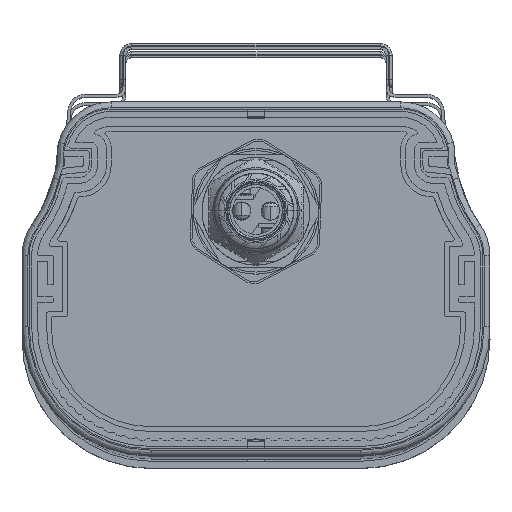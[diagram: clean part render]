
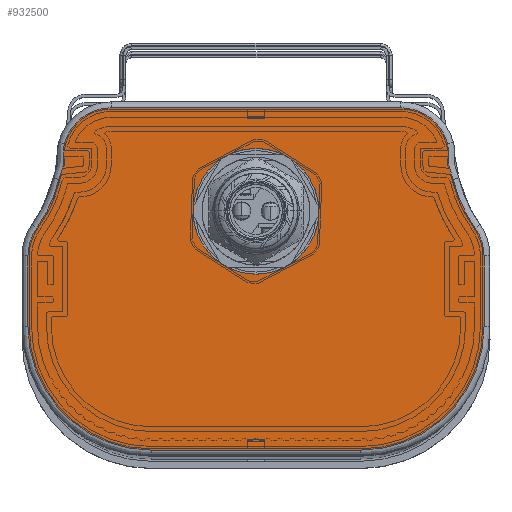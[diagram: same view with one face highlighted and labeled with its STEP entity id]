
A CAD part, top view. The second image highlights one B-rep face of the part: STEP entity #932500.
In plain terms, the highlighted planar face has unit normal (0, 0, 1) as drawn and (0, 0, -1) by its records, which use the part's own axes.
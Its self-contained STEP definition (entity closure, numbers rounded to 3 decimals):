
#930840=CARTESIAN_POINT('',(0.,0.,3.));
#930850=DIRECTION('',(0.,0.,1.));
#930860=DIRECTION('',(1.,0.,0.));
#930870=AXIS2_PLACEMENT_3D('',#930840,#930850,#930860);
#930880=PLANE('',#930870);
#930890=CARTESIAN_POINT('',(-38.1,36.,3.));
#930900=DIRECTION('',(0.,-1.,0.));
#930910=VECTOR('',#930900,1.);
#930920=LINE('',#930890,#930910);
#930930=CARTESIAN_POINT('',(-38.1,36.,3.));
#930940=VERTEX_POINT('',#930930);
#930950=CARTESIAN_POINT('',(-38.1,24.138,3.));
#930960=VERTEX_POINT('',#930950);
#930970=EDGE_CURVE('',#930940,#930960,#930920,.T.);
#930980=ORIENTED_EDGE('',*,*,#930970,.F.);
#930990=CARTESIAN_POINT('',(-30.,24.138,3.));
#931000=DIRECTION('',(-0.,0.,-1.));
#931010=DIRECTION('',(-0.819,-0.573,0.));
#931020=AXIS2_PLACEMENT_3D('',#930990,#931000,#931010);
#931030=CIRCLE('',#931020,8.1);
#931040=CARTESIAN_POINT('',(-36.637,19.494,3.));
#931050=VERTEX_POINT('',#931040);
#931060=EDGE_CURVE('',#931050,#930960,#931030,.T.);
#931070=ORIENTED_EDGE('',*,*,#931060,.T.);
#931080=CARTESIAN_POINT('',(-32.95,11.376,3.));
#931090=CARTESIAN_POINT('',(-33.154,12.279,3.));
#931100=CARTESIAN_POINT('',(-33.699,14.084,3.));
#931110=CARTESIAN_POINT('',(-34.918,16.838,3.));
#931120=CARTESIAN_POINT('',(-36.017,18.614,3.));
#931130=CARTESIAN_POINT('',(-36.637,19.494,3.));
#931140=B_SPLINE_CURVE_WITH_KNOTS('',3,(#931080,#931090,#931100,#931110,
#931120,#931130),.UNSPECIFIED.,.F.,.F.,(4,1,1,4),(0.,0.333,
0.667,1.),.UNSPECIFIED.);
#931150=CARTESIAN_POINT('',(-32.95,11.376,3.));
#931160=VERTEX_POINT('',#931150);
#931170=EDGE_CURVE('',#931160,#931050,#931140,.T.);
#931180=ORIENTED_EDGE('',*,*,#931170,.T.);
#931190=CARTESIAN_POINT('',(-32.017,5.417,
3.));
#931200=CARTESIAN_POINT('',(-32.077,5.641,
3.));
#931210=CARTESIAN_POINT('',(-32.153,6.103,
3.));
#931220=CARTESIAN_POINT('',(-32.166,6.832,
3.));
#931230=CARTESIAN_POINT('',(-32.138,7.593,
3.));
#931240=CARTESIAN_POINT('',(-32.132,8.249,
3.));
#931250=CARTESIAN_POINT('',(-32.177,8.789,
3.));
#931260=CARTESIAN_POINT('',(-32.249,9.196,
3.));
#931270=CARTESIAN_POINT('',(-32.357,9.587,
3.));
#931280=CARTESIAN_POINT('',(-32.523,10.086,
3.));
#931290=CARTESIAN_POINT('',(-32.749,10.682,
3.));
#931300=CARTESIAN_POINT('',(-32.894,11.144,
3.));
#931310=CARTESIAN_POINT('',(-32.95,11.376,
3.));
#931320=B_SPLINE_CURVE_WITH_KNOTS('',3,(#931190,#931200,#931210,#931220,
#931230,#931240,#931250,#931260,#931270,#931280,#931290,#931300,#931310)
,.UNSPECIFIED.,.F.,.F.,(4,1,1,1,1,1,1,1,1,1,4),(0.,0.125,0.25,0.375,0.5,
0.563,0.625,0.688,0.75,0.875,1.),.UNSPECIFIED.);
#931330=CARTESIAN_POINT('',(-32.017,5.415,3.));
#931340=VERTEX_POINT('',#931330);
#931350=EDGE_CURVE('',#931340,#931160,#931320,.T.);
#931360=ORIENTED_EDGE('',*,*,#931350,.T.);
#931370=CARTESIAN_POINT('',(-24.19,7.5,3.));
#931380=DIRECTION('',(0.,-0.,-1.));
#931390=DIRECTION('',(0.,-1.,0.));
#931400=AXIS2_PLACEMENT_3D('',#931370,#931380,#931390);
#931410=CIRCLE('',#931400,8.1);
#931420=CARTESIAN_POINT('',(-24.19,-0.6,3.));
#931430=VERTEX_POINT('',#931420);
#931440=EDGE_CURVE('',#931430,#931340,#931410,.T.);
#931450=ORIENTED_EDGE('',*,*,#931440,.T.);
#931460=CARTESIAN_POINT('',(-24.19,-0.6,3.));
#931470=DIRECTION('',(1.,0.,0.));
#931480=VECTOR('',#931470,1.);
#931490=LINE('',#931460,#931480);
#931500=CARTESIAN_POINT('',(24.19,-0.6,3.));
#931510=VERTEX_POINT('',#931500);
#931520=EDGE_CURVE('',#931430,#931510,#931490,.T.);
#931530=ORIENTED_EDGE('',*,*,#931520,.F.);
#931540=CARTESIAN_POINT('',(24.19,7.5,3.));
#931550=DIRECTION('',(0.,-0.,-1.));
#931560=DIRECTION('',(0.966,-0.257,0.));
#931570=AXIS2_PLACEMENT_3D('',#931540,#931550,#931560);
#931580=CIRCLE('',#931570,8.1);
#931590=CARTESIAN_POINT('',(32.018,5.417,3.));
#931600=VERTEX_POINT('',#931590);
#931610=EDGE_CURVE('',#931600,#931510,#931580,.T.);
#931620=ORIENTED_EDGE('',*,*,#931610,.T.);
#931630=CARTESIAN_POINT('',(32.95,11.376,
3.));
#931640=CARTESIAN_POINT('',(32.895,11.144,
3.));
#931650=CARTESIAN_POINT('',(32.75,10.682,
3.));
#931660=CARTESIAN_POINT('',(32.523,10.085,
3.));
#931670=CARTESIAN_POINT('',(32.357,9.587,
3.));
#931680=CARTESIAN_POINT('',(32.25,9.196,
3.));
#931690=CARTESIAN_POINT('',(32.177,8.789,
3.));
#931700=CARTESIAN_POINT('',(32.132,8.249,
3.));
#931710=CARTESIAN_POINT('',(32.139,7.593,
3.));
#931720=CARTESIAN_POINT('',(32.167,6.832,
3.));
#931730=CARTESIAN_POINT('',(32.154,6.103,
3.));
#931740=CARTESIAN_POINT('',(32.077,5.641,
3.));
#931750=CARTESIAN_POINT('',(32.018,5.417,
3.));
#931760=B_SPLINE_CURVE_WITH_KNOTS('',3,(#931630,#931640,#931650,#931660,
#931670,#931680,#931690,#931700,#931710,#931720,#931730,#931740,#931750)
,.UNSPECIFIED.,.F.,.F.,(4,1,1,1,1,1,1,1,1,1,4),(0.,0.125,0.25,0.313,
0.375,0.438,0.5,0.625,0.75,0.875,1.),.UNSPECIFIED.);
#931770=CARTESIAN_POINT('',(32.95,11.376,3.));
#931780=VERTEX_POINT('',#931770);
#931790=EDGE_CURVE('',#931780,#931600,#931760,.T.);
#931800=ORIENTED_EDGE('',*,*,#931790,.T.);
#931810=CARTESIAN_POINT('',(36.637,19.494,3.));
#931820=CARTESIAN_POINT('',(36.016,18.611,3.));
#931830=CARTESIAN_POINT('',(34.914,16.832,3.));
#931840=CARTESIAN_POINT('',(33.696,14.078,3.));
#931850=CARTESIAN_POINT('',(33.153,12.276,3.));
#931860=CARTESIAN_POINT('',(32.95,11.376,3.));
#931870=B_SPLINE_CURVE_WITH_KNOTS('',3,(#931810,#931820,#931830,#931840,
#931850,#931860),.UNSPECIFIED.,.F.,.F.,(4,1,1,4),(0.,0.333,
0.667,1.),.UNSPECIFIED.);
#931880=CARTESIAN_POINT('',(36.637,19.494,3.));
#931890=VERTEX_POINT('',#931880);
#931900=EDGE_CURVE('',#931890,#931780,#931870,.T.);
#931910=ORIENTED_EDGE('',*,*,#931900,.T.);
#931920=CARTESIAN_POINT('',(30.,24.138,3.));
#931930=DIRECTION('',(0.,0.,-1.));
#931940=DIRECTION('',(1.,0.,0.));
#931950=AXIS2_PLACEMENT_3D('',#931920,#931930,#931940);
#931960=CIRCLE('',#931950,8.1);
#931970=CARTESIAN_POINT('',(38.1,24.138,3.));
#931980=VERTEX_POINT('',#931970);
#931990=EDGE_CURVE('',#931980,#931890,#931960,.T.);
#932000=ORIENTED_EDGE('',*,*,#931990,.T.);
#932010=CARTESIAN_POINT('',(38.1,24.138,3.));
#932020=DIRECTION('',(0.,1.,0.));
#932030=VECTOR('',#932020,1.);
#932040=LINE('',#932010,#932030);
#932050=CARTESIAN_POINT('',(38.1,36.,3.));
#932060=VERTEX_POINT('',#932050);
#932070=EDGE_CURVE('',#931980,#932060,#932040,.T.);
#932080=ORIENTED_EDGE('',*,*,#932070,.F.);
#932090=CARTESIAN_POINT('',(17.5,36.,3.));
#932100=DIRECTION('',(0.,0.,-1.));
#932110=DIRECTION('',(0.,1.,0.));
#932120=AXIS2_PLACEMENT_3D('',#932090,#932100,#932110);
#932130=CIRCLE('',#932120,20.6);
#932140=CARTESIAN_POINT('',(17.5,56.6,3.));
#932150=VERTEX_POINT('',#932140);
#932160=EDGE_CURVE('',#932150,#932060,#932130,.T.);
#932170=ORIENTED_EDGE('',*,*,#932160,.T.);
#932180=CARTESIAN_POINT('',(17.5,56.6,3.));
#932190=DIRECTION('',(-1.,0.,0.));
#932200=VECTOR('',#932190,1.);
#932210=LINE('',#932180,#932200);
#932220=CARTESIAN_POINT('',(-17.5,56.6,3.));
#932230=VERTEX_POINT('',#932220);
#932240=EDGE_CURVE('',#932150,#932230,#932210,.T.);
#932250=ORIENTED_EDGE('',*,*,#932240,.F.);
#932260=CARTESIAN_POINT('',(-17.5,36.,3.));
#932270=DIRECTION('',(-0.,0.,-1.));
#932280=DIRECTION('',(-1.,0.,0.));
#932290=AXIS2_PLACEMENT_3D('',#932260,#932270,#932280);
#932300=CIRCLE('',#932290,20.6);
#932310=EDGE_CURVE('',#930940,#932230,#932300,.T.);
#932320=ORIENTED_EDGE('',*,*,#932310,.T.);
#932330=EDGE_LOOP('',(#932320,#932250,#932170,#932080,#932000,#931910,
#931800,#931620,#931530,#931450,#931360,#931180,#931070,#930980));
#932340=FACE_OUTER_BOUND('',#932330,.T.);
#932350=CARTESIAN_POINT('',(0.,16.7,3.));
#932360=DIRECTION('',(0.,0.,1.));
#932370=DIRECTION('',(1.,0.,0.));
#932380=AXIS2_PLACEMENT_3D('',#932350,#932360,#932370);
#932390=CIRCLE('',#932380,10.5);
#932400=CARTESIAN_POINT('',(0.,27.2,3.));
#932410=VERTEX_POINT('',#932400);
#932420=CARTESIAN_POINT('',(0.,6.2,3.));
#932430=VERTEX_POINT('',#932420);
#932440=EDGE_CURVE('',#932410,#932430,#932390,.T.);
#932450=ORIENTED_EDGE('',*,*,#932440,.T.);
#932460=EDGE_CURVE('',#932430,#932410,#932390,.T.);
#932470=ORIENTED_EDGE('',*,*,#932460,.T.);
#932480=EDGE_LOOP('',(#932470,#932450));
#932490=FACE_BOUND('',#932480,.T.);
#932500=ADVANCED_FACE('',(#932340,#932490),#930880,.F.);
